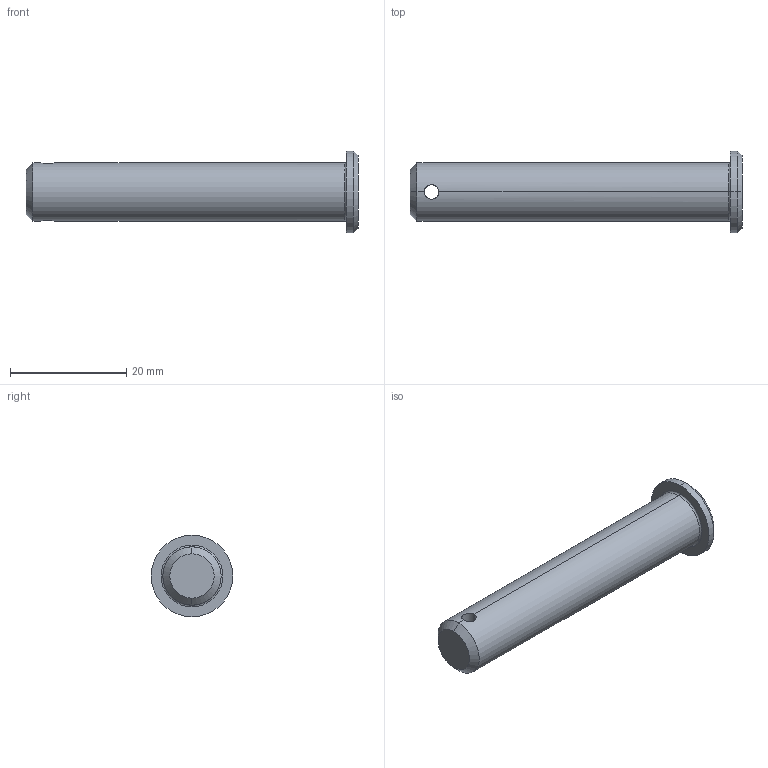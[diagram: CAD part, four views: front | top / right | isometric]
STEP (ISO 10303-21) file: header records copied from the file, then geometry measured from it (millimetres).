
FILE_DESCRIPTION (( 'STEP AP203' ), '1' );
FILE_NAME ('Wiberger-sms2360_10x55.step', '2012-10-09T08:57:11', ( 'Magnus' ), ( 'Wiberger' ), 'SwSTEP 2.0', 'SolidWorks 2011', '' );
FILE_SCHEMA (( 'CONFIG_CONTROL_DESIGN' ));
Length unit declared in the file: millimetre
Products named in the file (1): Wiberger-sms2360_10x55
Bounding box: 57 x 14 x 14 mm (x, y, z)
Volume: 4545.1 mm3; surface area: 2141.7 mm2
Topology: 1 solids, 1 shells, 15 faces, 32 edges, 18 vertices
Faces by surface type: cylinder 6, cone 4, plane 3, torus 2
Entity records: 555 total; most frequent: CARTESIAN_POINT 146, DIRECTION 76, ORIENTED_EDGE 64, EDGE_CURVE 32, AXIS2_PLACEMENT_3D 32, VERTEX_POINT 18, EDGE_LOOP 16, CIRCLE 16
